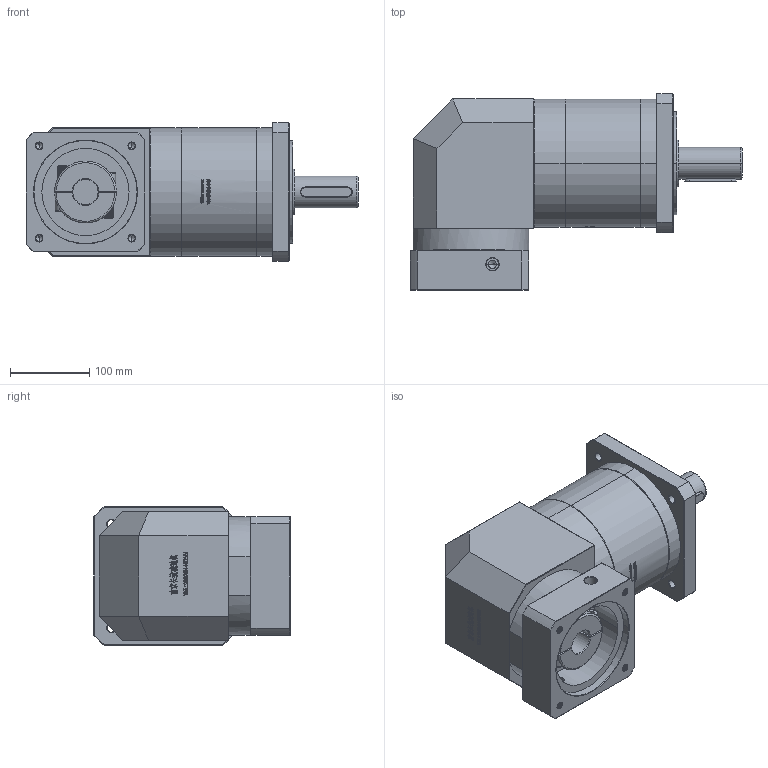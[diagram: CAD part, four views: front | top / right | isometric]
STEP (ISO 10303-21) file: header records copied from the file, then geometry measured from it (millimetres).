
FILE_DESCRIPTION (( 'STEP AP214' ), '1' );
FILE_NAME ('ZFR160A-D40-L3-32-130-165-M10.step', '2023-03-22T11:45:50', ( '' ), ( '' ), 'SwSTEP 2.0', 'SolidWorks 2016', '' );
FILE_SCHEMA (( 'AUTOMOTIVE_DESIGN' ));
Length unit declared in the file: millimetre
Products named in the file (1): ZFR160A-D40-L3-32-130-165-M10
Bounding box: 418.7 x 247.5 x 175 mm (x, y, z)
Volume: 8271802.5 mm3; surface area: 481830.4 mm2
Topology: 6 solids, 6 shells, 2521 faces, 6633 edges, 4265 vertices
Faces by surface type: plane 1275, bspline 488, cylinder 413, cone 310, torus 35
Entity records: 144205 total; most frequent: CARTESIAN_POINT 58558, ORIENTED_EDGE 13206, DIRECTION 10085, EDGE_CURVE 6603, VERTEX_POINT 4265, LINE 4157, VECTOR 4157, AXIS2_PLACEMENT_3D 2964
